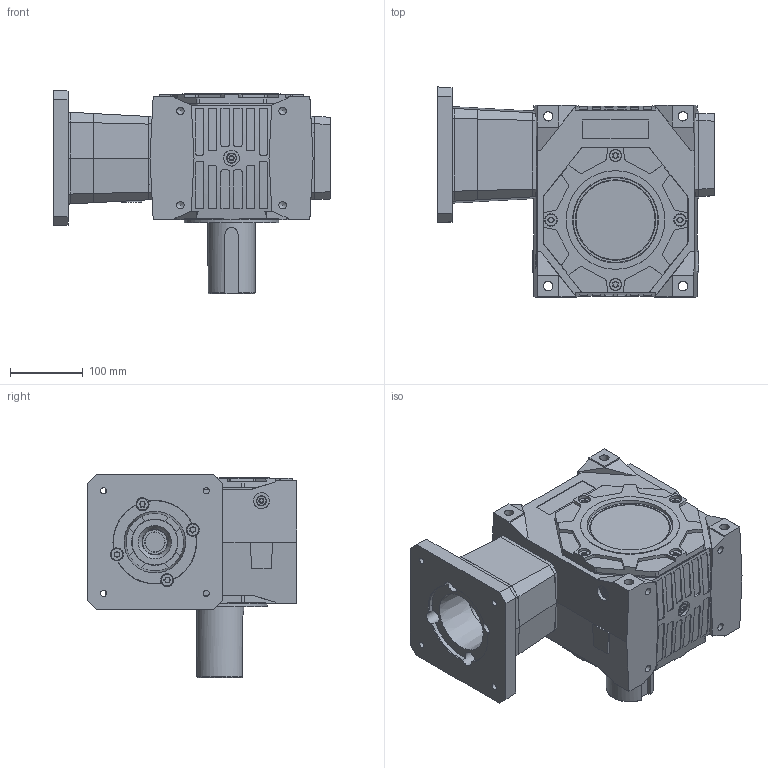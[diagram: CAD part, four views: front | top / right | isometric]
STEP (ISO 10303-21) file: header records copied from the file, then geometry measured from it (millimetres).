
FILE_DESCRIPTION( ( 'STEP AP203' ), '1' );
FILE_NAME( ' ', ' ', ( ' ' ), ( ' ' ), 'XStep 1.0', ' ', ' ' );
FILE_SCHEMA( ( 'CONFIG_CONTROL_DESIGN' ) );
Length unit declared in the file: millimetre
Products named in the file (33): 1; 2; 3; 4; 5; 6; 7; 8; 9; 10; 11; 12; 13; 14; 15; 16; 17; 18; 19; 20; 21; 22; 23; 24; 25; 26; 27; 28; 29; 30; 31; 32; 33
Bounding box: 382 x 289.55 x 280.55 mm (x, y, z)
Volume: 7019880.7 mm3; surface area: 1132706.6 mm2
Topology: 33 solids, 33 shells, 1615 faces, 4036 edges, 2591 vertices
Faces by surface type: plane 746, cylinder 644, cone 129, torus 56, sphere 26, bspline 14
Full cylindrical faces by diameter (mm): 6 x10, 6.7 x10, 6.75 x2, 8.4 x1, 8.5 x44, 9.73 x8, 10 x32, 10.25 x24, 11 x16, 13 x4, 14 x4, 16 x16, 17 x4, 17.5 x2, 18 x8, 22 x5, 25 x1, 25.5 x1, 28 x4, 33 x1, 35 x3, 42 x2, 48.88 x1, 53.5 x1, 54 x1, 59 x1, 62 x3, 64.6 x1, 65 x1, 69 x1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
Entity records: 51116 total; most frequent: CARTESIAN_POINT 12332, DIRECTION 8046, ORIENTED_EDGE 7102, EDGE_CURVE 3551, AXIS2_PLACEMENT_3D 3137, VERTEX_POINT 2505, EDGE_LOOP 2195, FACE_OUTER_BOUND 1864
